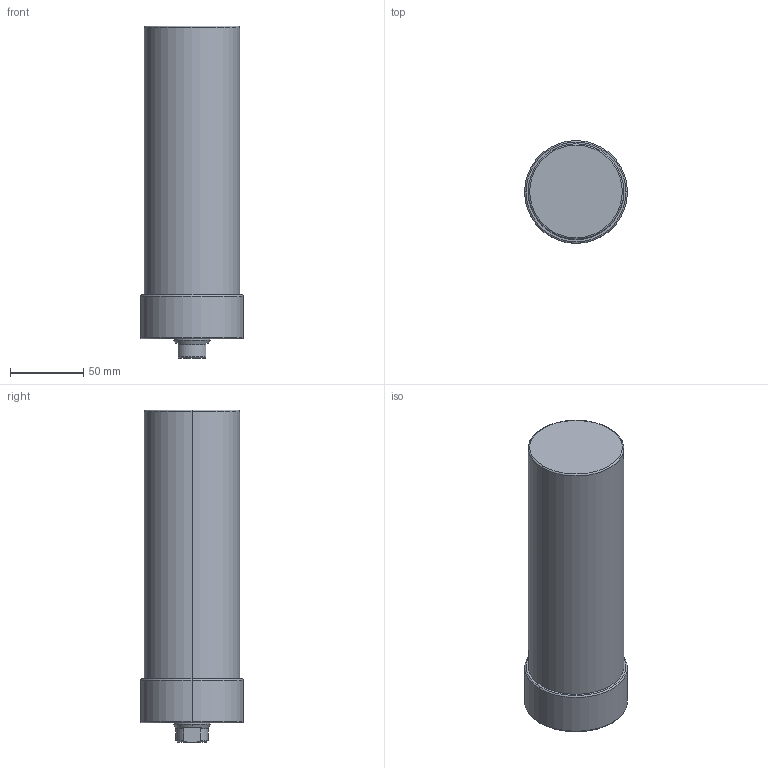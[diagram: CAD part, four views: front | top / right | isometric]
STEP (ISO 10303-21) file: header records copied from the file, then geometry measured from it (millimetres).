
FILE_DESCRIPTION (( 'STEP AP203' ), '1' );
FILE_NAME ('CLLU-065GA-150.STEP', '2020-01-07T00:16:39', ( '' ), ( '' ), 'SwSTEP 2.0', 'SolidWorks 2015', '' );
FILE_SCHEMA (( 'CONFIG_CONTROL_DESIGN' ));
Length unit declared in the file: millimetre
Products named in the file (1): CLLU-065GA-150
Bounding box: 70 x 70 x 226 mm (x, y, z)
Volume: 723138.1 mm3; surface area: 54393.9 mm2
Topology: 1 solids, 1 shells, 62 faces, 140 edges, 79 vertices
Faces by surface type: cone 24, cylinder 22, plane 10, torus 6
Entity records: 1751 total; most frequent: DIRECTION 320, CARTESIAN_POINT 300, ORIENTED_EDGE 260, AXIS2_PLACEMENT_3D 135, EDGE_CURVE 130, VERTEX_POINT 79, CIRCLE 72, EDGE_LOOP 71
